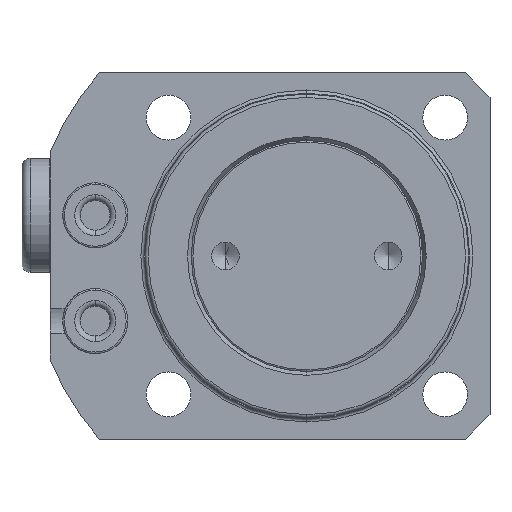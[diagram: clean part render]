
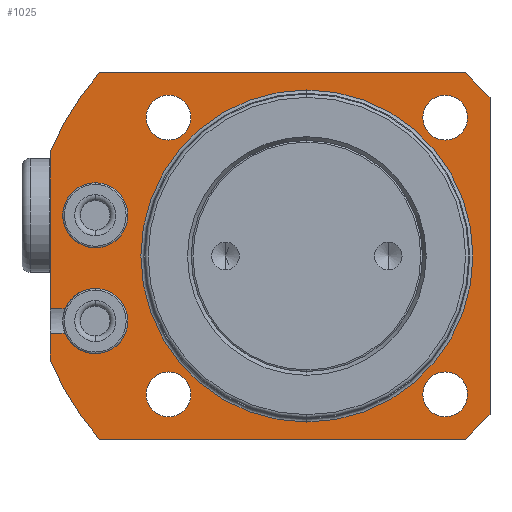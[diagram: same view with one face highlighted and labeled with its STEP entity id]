
A CAD part, front view. The second image highlights one B-rep face of the part: STEP entity #1025.
In plain terms, the highlighted planar face has unit normal (0, -1, 0).
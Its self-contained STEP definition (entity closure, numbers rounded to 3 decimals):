
#296=PLANE('',#4043);
#345=FACE_BOUND('',#1511,.T.);
#346=FACE_BOUND('',#1512,.T.);
#347=FACE_BOUND('',#1513,.T.);
#348=FACE_BOUND('',#1514,.T.);
#349=FACE_BOUND('',#1515,.T.);
#350=FACE_BOUND('',#1516,.T.);
#351=FACE_BOUND('',#1517,.T.);
#685=LINE('',#6542,#846);
#686=LINE('',#6545,#847);
#687=LINE('',#6547,#848);
#688=LINE('',#6551,#849);
#689=LINE('',#6553,#850);
#690=LINE('',#6555,#851);
#691=LINE('',#6557,#852);
#692=LINE('',#6559,#853);
#693=LINE('',#6563,#854);
#846=VECTOR('',#5094,1.);
#847=VECTOR('',#5097,1.);
#848=VECTOR('',#5098,1.);
#849=VECTOR('',#5101,1.);
#850=VECTOR('',#5102,1.);
#851=VECTOR('',#5103,1.);
#852=VECTOR('',#5104,1.);
#853=VECTOR('',#5105,1.);
#854=VECTOR('',#5108,1.);
#1025=ADVANCED_FACE('',(#345,#346,#347,#348,#349,#350,#351),#296,.T.);
#1511=EDGE_LOOP('',(#2291,#2292,#2293,#2294,#2295,#2296,#2297,#2298,#2299,
#2300,#2301,#2302,#2303,#2304));
#1512=EDGE_LOOP('',(#2305,#2306));
#1513=EDGE_LOOP('',(#2307,#2308));
#1514=EDGE_LOOP('',(#2309,#2310));
#1515=EDGE_LOOP('',(#2311,#2312));
#1516=EDGE_LOOP('',(#2313,#2314));
#1517=EDGE_LOOP('',(#2315,#2316));
#2291=ORIENTED_EDGE('',*,*,#3278,.F.);
#2292=ORIENTED_EDGE('',*,*,#3165,.F.);
#2293=ORIENTED_EDGE('',*,*,#3279,.F.);
#2294=ORIENTED_EDGE('',*,*,#3167,.F.);
#2295=ORIENTED_EDGE('',*,*,#3280,.F.);
#2296=ORIENTED_EDGE('',*,*,#3281,.T.);
#2297=ORIENTED_EDGE('',*,*,#3282,.T.);
#2298=ORIENTED_EDGE('',*,*,#3283,.T.);
#2299=ORIENTED_EDGE('',*,*,#3284,.T.);
#2300=ORIENTED_EDGE('',*,*,#3285,.T.);
#2301=ORIENTED_EDGE('',*,*,#3286,.T.);
#2302=ORIENTED_EDGE('',*,*,#3287,.T.);
#2303=ORIENTED_EDGE('',*,*,#3288,.T.);
#2304=ORIENTED_EDGE('',*,*,#3289,.T.);
#2305=ORIENTED_EDGE('',*,*,#3290,.F.);
#2306=ORIENTED_EDGE('',*,*,#3161,.F.);
#2307=ORIENTED_EDGE('',*,*,#3177,.F.);
#2308=ORIENTED_EDGE('',*,*,#3291,.F.);
#2309=ORIENTED_EDGE('',*,*,#3185,.F.);
#2310=ORIENTED_EDGE('',*,*,#3292,.F.);
#2311=ORIENTED_EDGE('',*,*,#3193,.F.);
#2312=ORIENTED_EDGE('',*,*,#3293,.F.);
#2313=ORIENTED_EDGE('',*,*,#3201,.F.);
#2314=ORIENTED_EDGE('',*,*,#3294,.F.);
#2315=ORIENTED_EDGE('',*,*,#3295,.F.);
#2316=ORIENTED_EDGE('',*,*,#3255,.F.);
#2751=VERTEX_POINT('',#6192);
#2752=VERTEX_POINT('',#6194);
#2755=VERTEX_POINT('',#6201);
#2756=VERTEX_POINT('',#6203);
#2757=VERTEX_POINT('',#6208);
#2758=VERTEX_POINT('',#6210);
#2767=VERTEX_POINT('',#6241);
#2768=VERTEX_POINT('',#6242);
#2775=VERTEX_POINT('',#6268);
#2776=VERTEX_POINT('',#6269);
#2783=VERTEX_POINT('',#6295);
#2784=VERTEX_POINT('',#6296);
#2791=VERTEX_POINT('',#6322);
#2792=VERTEX_POINT('',#6323);
#2833=VERTEX_POINT('',#6461);
#2834=VERTEX_POINT('',#6463);
#2851=VERTEX_POINT('',#6543);
#2852=VERTEX_POINT('',#6546);
#2853=VERTEX_POINT('',#6548);
#2854=VERTEX_POINT('',#6550);
#2855=VERTEX_POINT('',#6552);
#2856=VERTEX_POINT('',#6554);
#2857=VERTEX_POINT('',#6556);
#2858=VERTEX_POINT('',#6558);
#2859=VERTEX_POINT('',#6560);
#2860=VERTEX_POINT('',#6562);
#3161=EDGE_CURVE('',#2751,#2752,#3527,.T.);
#3165=EDGE_CURVE('',#2755,#2756,#3529,.T.);
#3167=EDGE_CURVE('',#2757,#2758,#3530,.T.);
#3177=EDGE_CURVE('',#2767,#2768,#3534,.T.);
#3185=EDGE_CURVE('',#2775,#2776,#3537,.T.);
#3193=EDGE_CURVE('',#2783,#2784,#3540,.T.);
#3201=EDGE_CURVE('',#2791,#2792,#3543,.T.);
#3255=EDGE_CURVE('',#2833,#2834,#3576,.T.);
#3278=EDGE_CURVE('',#2756,#2851,#685,.T.);
#3279=EDGE_CURVE('',#2758,#2755,#3586,.T.);
#3280=EDGE_CURVE('',#2852,#2757,#686,.T.);
#3281=EDGE_CURVE('',#2852,#2853,#687,.T.);
#3282=EDGE_CURVE('',#2853,#2854,#3587,.T.);
#3283=EDGE_CURVE('',#2854,#2855,#688,.T.);
#3284=EDGE_CURVE('',#2855,#2856,#689,.T.);
#3285=EDGE_CURVE('',#2856,#2857,#690,.T.);
#3286=EDGE_CURVE('',#2857,#2858,#691,.T.);
#3287=EDGE_CURVE('',#2858,#2859,#692,.T.);
#3288=EDGE_CURVE('',#2859,#2860,#3588,.T.);
#3289=EDGE_CURVE('',#2860,#2851,#693,.T.);
#3290=EDGE_CURVE('',#2752,#2751,#3589,.T.);
#3291=EDGE_CURVE('',#2768,#2767,#3590,.T.);
#3292=EDGE_CURVE('',#2776,#2775,#3591,.T.);
#3293=EDGE_CURVE('',#2784,#2783,#3592,.T.);
#3294=EDGE_CURVE('',#2792,#2791,#3593,.T.);
#3295=EDGE_CURVE('',#2834,#2833,#3594,.T.);
#3527=CIRCLE('',#3946,4.);
#3529=CIRCLE('',#3949,4.);
#3530=CIRCLE('',#3950,4.);
#3534=CIRCLE('',#3957,2.75);
#3537=CIRCLE('',#3962,2.75);
#3540=CIRCLE('',#3967,2.75);
#3543=CIRCLE('',#3972,2.75);
#3576=CIRCLE('',#4019,20.4);
#3586=CIRCLE('',#4034,4.);
#3587=CIRCLE('',#4035,34.);
#3588=CIRCLE('',#4036,34.);
#3589=CIRCLE('',#4037,4.);
#3590=CIRCLE('',#4038,2.75);
#3591=CIRCLE('',#4039,2.75);
#3592=CIRCLE('',#4040,2.75);
#3593=CIRCLE('',#4041,2.75);
#3594=CIRCLE('',#4042,20.4);
#3946=AXIS2_PLACEMENT_3D('',#6193,#4873,#4874);
#3949=AXIS2_PLACEMENT_3D('',#6202,#4881,#4882);
#3950=AXIS2_PLACEMENT_3D('',#6209,#4883,#4884);
#3957=AXIS2_PLACEMENT_3D('',#6240,#4902,#4903);
#3962=AXIS2_PLACEMENT_3D('',#6267,#4916,#4917);
#3967=AXIS2_PLACEMENT_3D('',#6294,#4930,#4931);
#3972=AXIS2_PLACEMENT_3D('',#6321,#4944,#4945);
#4019=AXIS2_PLACEMENT_3D('',#6462,#5058,#5059);
#4034=AXIS2_PLACEMENT_3D('',#6544,#5095,#5096);
#4035=AXIS2_PLACEMENT_3D('',#6549,#5099,#5100);
#4036=AXIS2_PLACEMENT_3D('',#6561,#5106,#5107);
#4037=AXIS2_PLACEMENT_3D('',#6564,#5109,#5110);
#4038=AXIS2_PLACEMENT_3D('',#6565,#5111,#5112);
#4039=AXIS2_PLACEMENT_3D('',#6566,#5113,#5114);
#4040=AXIS2_PLACEMENT_3D('',#6567,#5115,#5116);
#4041=AXIS2_PLACEMENT_3D('',#6568,#5117,#5118);
#4042=AXIS2_PLACEMENT_3D('',#6569,#5119,#5120);
#4043=AXIS2_PLACEMENT_3D('',#6570,#5121,#5122);
#4873=DIRECTION('',(0.,-1.,0.));
#4874=DIRECTION('',(0.,0.,-1.));
#4881=DIRECTION('',(0.,-1.,0.));
#4882=DIRECTION('',(0.,0.,-1.));
#4883=DIRECTION('',(0.,-1.,0.));
#4884=DIRECTION('',(0.,0.,-1.));
#4902=DIRECTION('',(0.,-1.,0.));
#4903=DIRECTION('',(0.,0.,-1.));
#4916=DIRECTION('',(0.,-1.,0.));
#4917=DIRECTION('',(0.,0.,-1.));
#4930=DIRECTION('',(0.,-1.,0.));
#4931=DIRECTION('',(0.,0.,-1.));
#4944=DIRECTION('',(0.,-1.,0.));
#4945=DIRECTION('',(0.,0.,-1.));
#5058=DIRECTION('',(0.,-1.,0.));
#5059=DIRECTION('',(0.,0.,-1.));
#5094=DIRECTION('',(-1.,0.,0.));
#5095=DIRECTION('',(0.,-1.,0.));
#5096=DIRECTION('',(0.,0.,-1.));
#5097=DIRECTION('',(1.,0.,0.));
#5098=DIRECTION('',(0.,0.,-1.));
#5099=DIRECTION('',(0.,-1.,0.));
#5100=DIRECTION('',(0.,0.,-1.));
#5101=DIRECTION('',(1.,0.,0.));
#5102=DIRECTION('',(0.707,0.,0.707));
#5103=DIRECTION('',(0.,0.,1.));
#5104=DIRECTION('',(-0.707,0.,0.707));
#5105=DIRECTION('',(-1.,0.,0.));
#5106=DIRECTION('',(0.,-1.,0.));
#5107=DIRECTION('',(0.,0.,-1.));
#5108=DIRECTION('',(0.,0.,-1.));
#5109=DIRECTION('',(0.,-1.,0.));
#5110=DIRECTION('',(0.,0.,-1.));
#5111=DIRECTION('',(0.,-1.,0.));
#5112=DIRECTION('',(0.,0.,-1.));
#5113=DIRECTION('',(0.,-1.,0.));
#5114=DIRECTION('',(0.,0.,-1.));
#5115=DIRECTION('',(0.,-1.,0.));
#5116=DIRECTION('',(0.,0.,-1.));
#5117=DIRECTION('',(0.,-1.,0.));
#5118=DIRECTION('',(0.,0.,-1.));
#5119=DIRECTION('',(0.,-1.,0.));
#5120=DIRECTION('',(0.,0.,-1.));
#5121=DIRECTION('',(0.,-1.,0.));
#5122=DIRECTION('',(0.,0.,1.));
#6192=CARTESIAN_POINT('',(-26.,31.886,9.));
#6193=CARTESIAN_POINT('',(-26.,31.886,5.));
#6194=CARTESIAN_POINT('',(-26.,31.886,1.));
#6201=CARTESIAN_POINT('',(-26.,31.886,-4.));
#6202=CARTESIAN_POINT('',(-26.,31.886,-8.));
#6203=CARTESIAN_POINT('',(-29.7,31.886,-6.48));
#6208=CARTESIAN_POINT('',(-29.7,31.886,-9.52));
#6209=CARTESIAN_POINT('',(-26.,31.886,-8.));
#6210=CARTESIAN_POINT('',(-26.,31.886,-12.));
#6240=CARTESIAN_POINT('',(-17.,31.886,-17.));
#6241=CARTESIAN_POINT('',(-17.,31.886,-14.25));
#6242=CARTESIAN_POINT('',(-17.,31.886,-19.75));
#6267=CARTESIAN_POINT('',(-17.,31.886,17.));
#6268=CARTESIAN_POINT('',(-17.,31.886,19.75));
#6269=CARTESIAN_POINT('',(-17.,31.886,14.25));
#6294=CARTESIAN_POINT('',(17.,31.886,-17.));
#6295=CARTESIAN_POINT('',(17.,31.886,-14.25));
#6296=CARTESIAN_POINT('',(17.,31.886,-19.75));
#6321=CARTESIAN_POINT('',(17.,31.886,17.));
#6322=CARTESIAN_POINT('',(17.,31.886,19.75));
#6323=CARTESIAN_POINT('',(17.,31.886,14.25));
#6461=CARTESIAN_POINT('',(0.,31.886,20.4));
#6462=CARTESIAN_POINT('',(0.,31.886,0.));
#6463=CARTESIAN_POINT('',(0.,31.886,-20.4));
#6542=CARTESIAN_POINT('',(-26.5,31.886,-6.48));
#6543=CARTESIAN_POINT('',(-31.5,31.886,-6.48));
#6544=CARTESIAN_POINT('',(-26.,31.886,-8.));
#6545=CARTESIAN_POINT('',(-26.5,31.886,-9.52));
#6546=CARTESIAN_POINT('',(-31.5,31.886,-9.52));
#6547=CARTESIAN_POINT('',(-31.5,31.886,0.));
#6548=CARTESIAN_POINT('',(-31.5,31.886,-12.796));
#6549=CARTESIAN_POINT('',(0.,31.886,0.));
#6550=CARTESIAN_POINT('',(-25.49,31.886,-22.5));
#6551=CARTESIAN_POINT('',(20.4,31.886,-22.5));
#6552=CARTESIAN_POINT('',(19.5,31.886,-22.5));
#6553=CARTESIAN_POINT('',(31.2,31.886,-10.8));
#6554=CARTESIAN_POINT('',(22.5,31.886,-19.5));
#6555=CARTESIAN_POINT('',(22.5,31.886,0.));
#6556=CARTESIAN_POINT('',(22.5,31.886,19.5));
#6557=CARTESIAN_POINT('',(31.2,31.886,10.8));
#6558=CARTESIAN_POINT('',(19.5,31.886,22.5));
#6559=CARTESIAN_POINT('',(20.4,31.886,22.5));
#6560=CARTESIAN_POINT('',(-25.49,31.886,22.5));
#6561=CARTESIAN_POINT('',(0.,31.886,0.));
#6562=CARTESIAN_POINT('',(-31.5,31.886,12.796));
#6563=CARTESIAN_POINT('',(-31.5,31.886,0.));
#6564=CARTESIAN_POINT('',(-26.,31.886,5.));
#6565=CARTESIAN_POINT('',(-17.,31.886,-17.));
#6566=CARTESIAN_POINT('',(-17.,31.886,17.));
#6567=CARTESIAN_POINT('',(17.,31.886,-17.));
#6568=CARTESIAN_POINT('',(17.,31.886,17.));
#6569=CARTESIAN_POINT('',(0.,31.886,0.));
#6570=CARTESIAN_POINT('',(20.4,31.886,0.));
